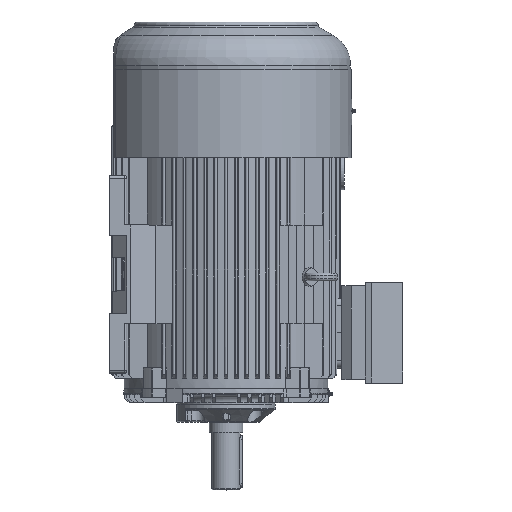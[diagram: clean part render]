
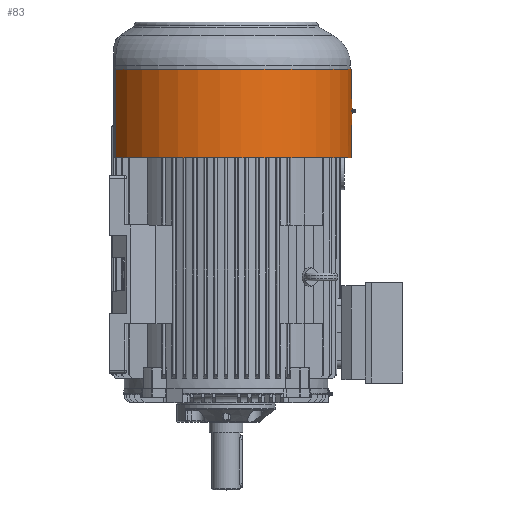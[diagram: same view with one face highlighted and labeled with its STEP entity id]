
A CAD part, top view. The second image highlights one B-rep face of the part: STEP entity #83.
In plain terms, the highlighted cylindrical face has radius 241.5 mm (diameter 483 mm), a partial arc.
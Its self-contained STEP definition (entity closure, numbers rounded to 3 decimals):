
#83 = ADVANCED_FACE( '', ( #1240, #1241 ), #1242, .T. );
#1240 = FACE_OUTER_BOUND( '', #3657, .T. );
#1241 = FACE_BOUND( '', #3658, .T. );
#1242 = CYLINDRICAL_SURFACE( '', #3659, 241.5 );
#3657 = EDGE_LOOP( '', ( #7478, #7479, #7480, #7481 ) );
#3658 = EDGE_LOOP( '', ( #7482, #7483, #7484, #7485, #7486, #7487 ) );
#3659 = AXIS2_PLACEMENT_3D( '', #7488, #7489, #7490 );
#7478 = ORIENTED_EDGE( '', *, *, #17020, .F. );
#7479 = ORIENTED_EDGE( '', *, *, #17021, .T. );
#7480 = ORIENTED_EDGE( '', *, *, #16840, .T. );
#7481 = ORIENTED_EDGE( '', *, *, #16835, .F. );
#7482 = ORIENTED_EDGE( '', *, *, #17022, .T. );
#7483 = ORIENTED_EDGE( '', *, *, #17023, .T. );
#7484 = ORIENTED_EDGE( '', *, *, #17024, .T. );
#7485 = ORIENTED_EDGE( '', *, *, #17025, .T. );
#7486 = ORIENTED_EDGE( '', *, *, #17026, .T. );
#7487 = ORIENTED_EDGE( '', *, *, #17027, .T. );
#7488 = CARTESIAN_POINT( '', ( 0., 614.64, 0. ) );
#7489 = DIRECTION( '', ( 0., 1., 0. ) );
#7490 = DIRECTION( '', ( -1., 0., 0. ) );
#16835 = EDGE_CURVE( '', #19967, #19969, #19970, .T. );
#16840 = EDGE_CURVE( '', #19978, #19969, #19979, .T. );
#17020 = EDGE_CURVE( '', #20337, #19967, #20338, .T. );
#17021 = EDGE_CURVE( '', #20337, #19978, #20339, .T. );
#17022 = EDGE_CURVE( '', #20340, #20341, #20342, .F. );
#17023 = EDGE_CURVE( '', #20341, #20343, #20344, .F. );
#17024 = EDGE_CURVE( '', #20343, #20345, #20346, .F. );
#17025 = EDGE_CURVE( '', #20345, #20347, #20348, .F. );
#17026 = EDGE_CURVE( '', #20347, #20349, #20350, .F. );
#17027 = EDGE_CURVE( '', #20349, #20340, #20351, .F. );
#19967 = VERTEX_POINT( '', #25043 );
#19969 = VERTEX_POINT( '', #25045 );
#19970 = LINE( '', #25046, #25047 );
#19978 = VERTEX_POINT( '', #25057 );
#19979 = CIRCLE( '', #25058, 241.5 );
#20337 = VERTEX_POINT( '', #25507 );
#20338 = CIRCLE( '', #25508, 241.5 );
#20339 = LINE( '', #25509, #25510 );
#20340 = VERTEX_POINT( '', #25511 );
#20341 = VERTEX_POINT( '', #25512 );
#20342 = ELLIPSE( '', #25513, 483., 241.5 );
#20343 = VERTEX_POINT( '', #25514 );
#20344 = CIRCLE( '', #25515, 241.5 );
#20345 = VERTEX_POINT( '', #25516 );
#20346 = ELLIPSE( '', #25517, 483., 241.5 );
#20347 = VERTEX_POINT( '', #25518 );
#20348 = ELLIPSE( '', #25519, 483., 241.5 );
#20349 = VERTEX_POINT( '', #25520 );
#20350 = CIRCLE( '', #25521, 241.5 );
#20351 = ELLIPSE( '', #25522, 483., 241.5 );
#25043 = CARTESIAN_POINT( '', ( -212.75, 614.64, -114.279 ) );
#25045 = CARTESIAN_POINT( '', ( -212.75, 444.64, -114.279 ) );
#25046 = CARTESIAN_POINT( '', ( -212.75, 1186.925, -114.279 ) );
#25047 = VECTOR( '', #36319, 1000. );
#25057 = CARTESIAN_POINT( '', ( -212.75, 444.64, 114.279 ) );
#25058 = AXIS2_PLACEMENT_3D( '', #36328, #36329, #36330 );
#25507 = CARTESIAN_POINT( '', ( -212.75, 614.64, 114.279 ) );
#25508 = AXIS2_PLACEMENT_3D( '', #36686, #36687, #36688 );
#25509 = CARTESIAN_POINT( '', ( -212.75, 1186.925, 114.279 ) );
#25510 = VECTOR( '', #36689, 1000. );
#25511 = CARTESIAN_POINT( '', ( 241.416, 534.64, -6.351 ) );
#25512 = CARTESIAN_POINT( '', ( 241.479, 529.14, -3.175 ) );
#25513 = AXIS2_PLACEMENT_3D( '', #36690, #36691, #36692 );
#25514 = CARTESIAN_POINT( '', ( 241.479, 529.14, 3.175 ) );
#25515 = AXIS2_PLACEMENT_3D( '', #36693, #36694, #36695 );
#25516 = CARTESIAN_POINT( '', ( 241.416, 534.64, 6.351 ) );
#25517 = AXIS2_PLACEMENT_3D( '', #36696, #36697, #36698 );
#25518 = CARTESIAN_POINT( '', ( 241.479, 540.14, 3.175 ) );
#25519 = AXIS2_PLACEMENT_3D( '', #36699, #36700, #36701 );
#25520 = CARTESIAN_POINT( '', ( 241.479, 540.14, -3.175 ) );
#25521 = AXIS2_PLACEMENT_3D( '', #36702, #36703, #36704 );
#25522 = AXIS2_PLACEMENT_3D( '', #36705, #36706, #36707 );
#36319 = DIRECTION( '', ( 0., -1., 0. ) );
#36328 = CARTESIAN_POINT( '', ( 0., 444.64, 0. ) );
#36329 = DIRECTION( '', ( 0., 1., 0. ) );
#36330 = DIRECTION( '', ( 0., 0., -1. ) );
#36686 = CARTESIAN_POINT( '', ( 0., 614.64, 0. ) );
#36687 = DIRECTION( '', ( 0., 1., 0. ) );
#36688 = DIRECTION( '', ( 0., 0., -1. ) );
#36689 = DIRECTION( '', ( 0., -1., 0. ) );
#36690 = CARTESIAN_POINT( '', ( 0., 523.64, 0. ) );
#36691 = DIRECTION( '', ( 0., 0.5, 0.866 ) );
#36692 = DIRECTION( '', ( 0., -0.866, 0.5 ) );
#36693 = CARTESIAN_POINT( '', ( 0., 529.14, 0. ) );
#36694 = DIRECTION( '', ( 0., 1., 0. ) );
#36695 = DIRECTION( '', ( -1., 0., 0. ) );
#36696 = CARTESIAN_POINT( '', ( 0., 523.64, 0. ) );
#36697 = DIRECTION( '', ( 0., 0.5, -0.866 ) );
#36698 = DIRECTION( '', ( 0., -0.866, -0.5 ) );
#36699 = CARTESIAN_POINT( '', ( 0., 545.64, 0. ) );
#36700 = DIRECTION( '', ( 0., -0.5, -0.866 ) );
#36701 = DIRECTION( '', ( 0., -0.866, 0.5 ) );
#36702 = CARTESIAN_POINT( '', ( 0., 540.14, 0. ) );
#36703 = DIRECTION( '', ( 0., -1., 0. ) );
#36704 = DIRECTION( '', ( 1., 0., 0. ) );
#36705 = CARTESIAN_POINT( '', ( 0., 545.64, 0. ) );
#36706 = DIRECTION( '', ( 0., -0.5, 0.866 ) );
#36707 = DIRECTION( '', ( 0., -0.866, -0.5 ) );
